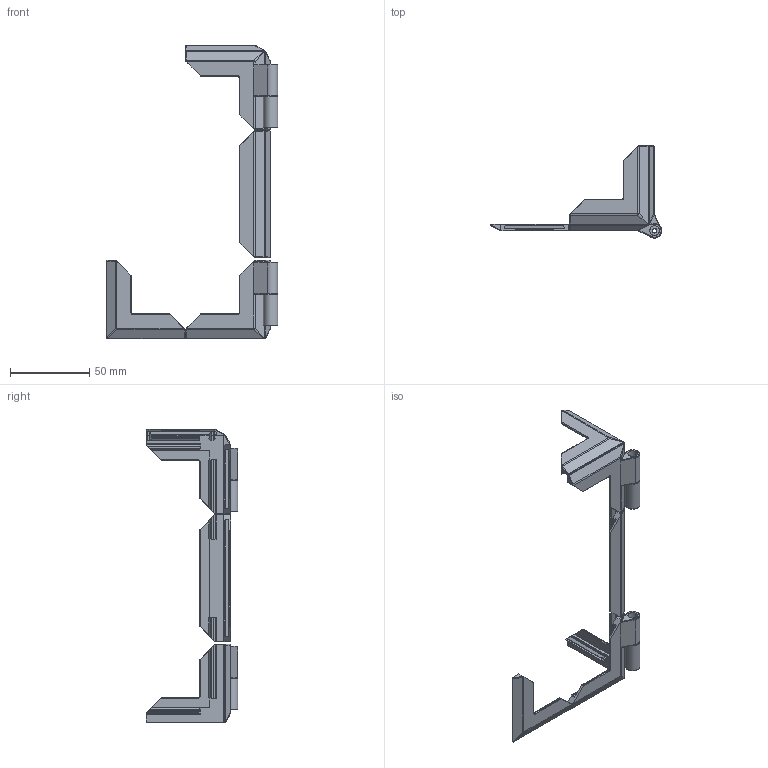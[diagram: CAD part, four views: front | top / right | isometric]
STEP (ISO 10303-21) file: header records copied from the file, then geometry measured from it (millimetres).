
FILE_DESCRIPTION(('FreeCAD Model'),'2;1');
FILE_NAME('Open CASCADE Shape Model','2024-07-13T16:02:26',(''),(''), 'Open CASCADE STEP processor 7.7','FreeCAD','Unknown');
FILE_SCHEMA(('AUTOMOTIVE_DESIGN_CC2 { 1 2 10303 214 -1 1 5 4 }'));
Length unit declared in the file: millimetre
Products named in the file (8): Door Idler Cover; Panel Top Hinge; Panel Bottom Hinge; Door Bottom Hinge; Door Top Hine; Panel Idler Cover; Door Corner; Panel Corner
Bounding box: 108.23 x 58.03 x 185.6 mm (x, y, z)
Volume: 30198.9 mm3; surface area: 32170.1 mm2
Topology: 8 solids, 8 shells, 588 faces, 1526 edges, 938 vertices
Faces by surface type: plane 344, cylinder 160, bspline 52, torus 20, sphere 12
Full cylindrical faces by diameter (mm): 3 x4, 6 x2
Entity records: 29514 total; most frequent: CARTESIAN_POINT 13094, ORIENTED_EDGE 3016, DIRECTION 2654, EDGE_CURVE 1508, LINE 1084, VECTOR 1084, VERTEX_POINT 938, AXIS2_PLACEMENT_3D 785
